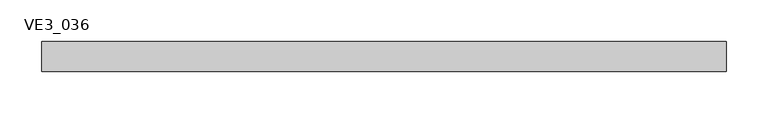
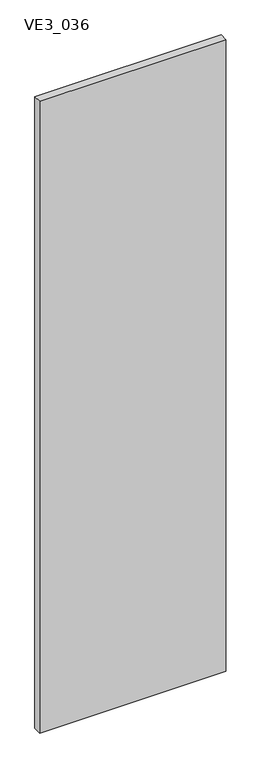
"""IFC4 building model written with IfcOpenShell, lengths in millimetres: plate geometry, TRP_CP_ARC_PF_RE_SE : VE3_036."""

from ifc_helpers import new_model, si_unit, frame, origin, place, context, project, spatial, polyline, outline, extrude, source, transform, mapped, element, save


def ve3_036_8a0f5401(model_context):
    return source(origin(), model_context, "Body", "SweptSolid", [
        extrude(outline(polyline([(408.9613188, -18.0), (-408.9613188, -18.0), (-408.9613188, 18.0), (408.9613188, 18.0), (408.9613188, -18.0)])), frame((0.0, 0.0, -3.1739529), z_axis=(0.0, 0.0, 1.0), x_axis=(1.0, 0.0, 0.0)), (0.0, 0.0, 1.0), 2933.1739529),
    ])


if __name__ == "__main__":
    model = new_model("IFC4")
    model_context = context("Model", 3, world=origin())
    ifc_project = project(units=[si_unit("LENGTHUNIT", "METRE", prefix="MILLI")], contexts=[model_context])
    site = spatial("IfcSite", under=ifc_project)
    building = spatial("IfcBuilding", under=site)
    placement = place(None, origin())
    ve3_036_shape = ve3_036_8a0f5401(model_context)
    element("IfcPlate", 1, ObjectType="TRP_CP_ARC_PF_RE_SE : VE3_036", at=placement, inside=building, context=model_context, shape_type="MappedRepresentation", body=[
        mapped(ve3_036_shape, transform((0.0, 0.0, 0.0), x_axis=(1.0, 0.0, 0.0), y_axis=(0.0, 1.0, 0.0), z_axis=(0.0, 0.0, 1.0))),
    ])
    save(model, "model.ifc")
